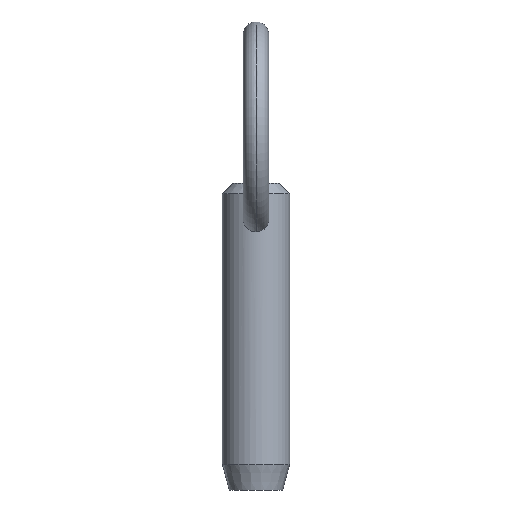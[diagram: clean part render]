
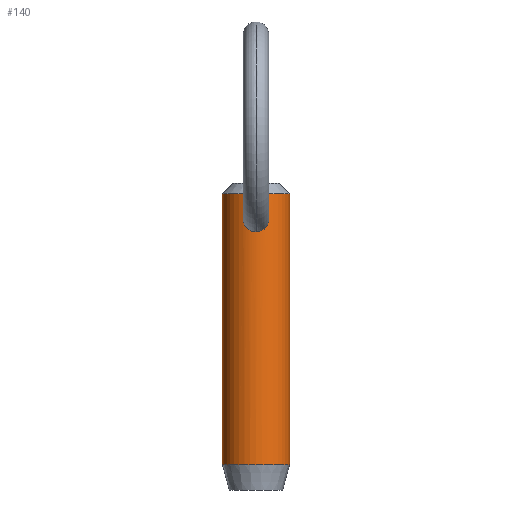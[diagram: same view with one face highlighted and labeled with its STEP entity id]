
A CAD part, front view. The second image highlights one B-rep face of the part: STEP entity #140.
In plain terms, the highlighted cylindrical face has radius 3.965 mm (diameter 7.93 mm), a partial arc.
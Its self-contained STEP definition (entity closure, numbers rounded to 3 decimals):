
#3 = CARTESIAN_POINT ( 'NONE',  ( 1.471, -3.682, 22.094 ) ) ;
#9 = EDGE_LOOP ( 'NONE', ( #222, #176, #436, #37 ) ) ;
#16 = DIRECTION ( 'NONE',  ( 0., 0., 1. ) ) ;
#20 = EDGE_LOOP ( 'NONE', ( #382, #62 ) ) ;
#21 = CARTESIAN_POINT ( 'NONE',  ( 0., 0., -6.52 ) ) ;
#32 = CARTESIAN_POINT ( 'NONE',  ( -1.48, -3.679, 22.089 ) ) ;
#37 = ORIENTED_EDGE ( 'NONE', *, *, #57, .T. ) ;
#38 = CARTESIAN_POINT ( 'NONE',  ( -0.102, -3.965, 24.147 ) ) ;
#42 = CARTESIAN_POINT ( 'NONE',  ( 1.493, -3.673, 22.604 ) ) ;
#48 = DIRECTION ( 'NONE',  ( 0., 0., -1. ) ) ;
#49 = DIRECTION ( 'NONE',  ( 0., 0., -1. ) ) ;
#56 = CARTESIAN_POINT ( 'NONE',  ( 3.965, 0., -6.52 ) ) ;
#57 = EDGE_CURVE ( 'NONE', #178, #213, #240, .T. ) ;
#59 = CARTESIAN_POINT ( 'NONE',  ( -3.965, 0., -6.52 ) ) ;
#62 = ORIENTED_EDGE ( 'NONE', *, *, #280, .T. ) ;
#63 = DIRECTION ( 'NONE',  ( -1., 0., 0. ) ) ;
#66 = CARTESIAN_POINT ( 'NONE',  ( -1.441, -3.695, 22.908 ) ) ;
#67 = EDGE_CURVE ( 'NONE', #353, #213, #340, .T. ) ;
#70 = CARTESIAN_POINT ( 'NONE',  ( -0.206, -3.961, 24.134 ) ) ;
#82 = CARTESIAN_POINT ( 'NONE',  ( 0.404, -3.946, 24.082 ) ) ;
#83 = CARTESIAN_POINT ( 'NONE',  ( 1.503, -3.669, 22.399 ) ) ;
#89 = CIRCLE ( 'NONE', #144, 3.965 ) ;
#102 = CARTESIAN_POINT ( 'NONE',  ( 0., 0., 25.45 ) ) ;
#106 = EDGE_CURVE ( 'NONE', #353, #289, #89, .T. ) ;
#107 = CARTESIAN_POINT ( 'NONE',  ( -1.229, -3.77, 21.539 ) ) ;
#119 = CARTESIAN_POINT ( 'NONE',  ( 0.77, -3.894, 23.9 ) ) ;
#123 = CARTESIAN_POINT ( 'NONE',  ( 1.028, -3.83, 21.315 ) ) ;
#140 = ADVANCED_FACE ( 'NONE', ( #490, #165 ), #188, .T. ) ;
#144 = AXIS2_PLACEMENT_3D ( 'NONE', #102, #384, #184 ) ;
#148 = CARTESIAN_POINT ( 'NONE',  ( -1.488, -3.675, 22.705 ) ) ;
#149 = CARTESIAN_POINT ( 'NONE',  ( -0.925, -3.858, 23.768 ) ) ;
#155 = CARTESIAN_POINT ( 'NONE',  ( 0.409, -3.948, 20.974 ) ) ;
#158 = CARTESIAN_POINT ( 'NONE',  ( 0., -3.965, 24.147 ) ) ;
#161 = CARTESIAN_POINT ( 'NONE',  ( 3.965, 0., 25.45 ) ) ;
#162 = CARTESIAN_POINT ( 'NONE',  ( 1.479, -3.679, 22.707 ) ) ;
#165 = FACE_BOUND ( 'NONE', #20, .T. ) ;
#176 = ORIENTED_EDGE ( 'NONE', *, *, #106, .T. ) ;
#177 = AXIS2_PLACEMENT_3D ( 'NONE', #305, #349, #63 ) ;
#178 = VERTEX_POINT ( 'NONE', #59 ) ;
#184 = DIRECTION ( 'NONE',  ( 1., 0., 0. ) ) ;
#187 = CARTESIAN_POINT ( 'NONE',  ( -0.498, -3.935, 24.044 ) ) ;
#188 = CYLINDRICAL_SURFACE ( 'NONE', #177, 3.965 ) ;
#191 = VERTEX_POINT ( 'NONE', #473 ) ;
#200 = CARTESIAN_POINT ( 'NONE',  ( 1.186, -3.786, 23.459 ) ) ;
#203 = CARTESIAN_POINT ( 'NONE',  ( 0., -3.965, 20.935 ) ) ;
#209 = CARTESIAN_POINT ( 'NONE',  ( 0.205, -3.961, 24.134 ) ) ;
#212 = B_SPLINE_CURVE_WITH_KNOTS ( 'NONE', 3,
 ( #158, #363, #209, #82, #445, #119, #484, #200, #405, #410, #481, #162, #42, #83, #283, #3, #369, #278, #371, #123, #235, #407, #404, #155, #447, #203 ),
 .UNSPECIFIED., .F., .F.,
 ( 4, 2, 2, 2, 2, 2, 2, 2, 2, 2, 2, 2, 4 ),
 ( 0.004, 0.005, 0.005, 0.005, 0.006, 0.006, 0.007, 0.007, 0.007, 0.008, 0.008, 0.008, 0.009 ),
 .UNSPECIFIED. ) ;
#213 = VERTEX_POINT ( 'NONE', #56 ) ;
#222 = ORIENTED_EDGE ( 'NONE', *, *, #67, .F. ) ;
#231 = CARTESIAN_POINT ( 'NONE',  ( -3.965, 0., 25.45 ) ) ;
#234 = CARTESIAN_POINT ( 'NONE',  ( -0.41, -3.948, 20.974 ) ) ;
#235 = CARTESIAN_POINT ( 'NONE',  ( 0.949, -3.851, 21.249 ) ) ;
#240 = CIRCLE ( 'NONE', #253, 3.965 ) ;
#253 = AXIS2_PLACEMENT_3D ( 'NONE', #21, #16, #465 ) ;
#265 = LINE ( 'NONE', #333, #386 ) ;
#268 = CARTESIAN_POINT ( 'NONE',  ( -1.168, -3.79, 21.459 ) ) ;
#274 = CARTESIAN_POINT ( 'NONE',  ( -0.788, -3.891, 21.128 ) ) ;
#278 = CARTESIAN_POINT ( 'NONE',  ( 1.346, -3.73, 21.708 ) ) ;
#280 = EDGE_CURVE ( 'NONE', #191, #359, #300, .T. ) ;
#283 = CARTESIAN_POINT ( 'NONE',  ( 1.499, -3.671, 22.297 ) ) ;
#285 = CARTESIAN_POINT ( 'NONE',  ( 0., -3.965, 24.147 ) ) ;
#289 = VERTEX_POINT ( 'NONE', #231 ) ;
#298 = CARTESIAN_POINT ( 'NONE',  ( 3.965, 0., 20.3 ) ) ;
#300 = B_SPLINE_CURVE_WITH_KNOTS ( 'NONE', 3,
 ( #510, #504, #234, #274, #319, #268, #107, #439, #390, #32, #358, #148, #66, #509, #314, #149, #399, #187, #443, #70, #38, #435 ),
 .UNSPECIFIED., .F., .F.,
 ( 4, 2, 2, 2, 2, 2, 2, 2, 2, 2, 4 ),
 ( 0.009, 0.01, 0.01, 0.011, 0.011, 0.012, 0.012, 0.013, 0.013, 0.014, 0.014 ),
 .UNSPECIFIED. ) ;
#305 = CARTESIAN_POINT ( 'NONE',  ( 0., 0., 20.3 ) ) ;
#314 = CARTESIAN_POINT ( 'NONE',  ( -1.186, -3.786, 23.46 ) ) ;
#319 = CARTESIAN_POINT ( 'NONE',  ( -0.957, -3.85, 21.241 ) ) ;
#329 = VECTOR ( 'NONE', #49, 1000. ) ;
#333 = CARTESIAN_POINT ( 'NONE',  ( -3.965, 0., 20.3 ) ) ;
#340 = LINE ( 'NONE', #298, #329 ) ;
#349 = DIRECTION ( 'NONE',  ( 0., 0., -1. ) ) ;
#353 = VERTEX_POINT ( 'NONE', #161 ) ;
#358 = CARTESIAN_POINT ( 'NONE',  ( -1.508, -3.667, 22.297 ) ) ;
#359 = VERTEX_POINT ( 'NONE', #285 ) ;
#363 = CARTESIAN_POINT ( 'NONE',  ( 0.102, -3.965, 24.147 ) ) ;
#369 = CARTESIAN_POINT ( 'NONE',  ( 1.447, -3.692, 21.993 ) ) ;
#371 = CARTESIAN_POINT ( 'NONE',  ( 1.237, -3.77, 21.531 ) ) ;
#382 = ORIENTED_EDGE ( 'NONE', *, *, #408, .T. ) ;
#384 = DIRECTION ( 'NONE',  ( 0., 0., -1. ) ) ;
#386 = VECTOR ( 'NONE', #48, 1000. ) ;
#390 = CARTESIAN_POINT ( 'NONE',  ( -1.379, -3.718, 21.803 ) ) ;
#399 = CARTESIAN_POINT ( 'NONE',  ( -0.77, -3.894, 23.9 ) ) ;
#404 = CARTESIAN_POINT ( 'NONE',  ( 0.693, -3.905, 21.09 ) ) ;
#405 = CARTESIAN_POINT ( 'NONE',  ( 1.291, -3.75, 23.283 ) ) ;
#407 = CARTESIAN_POINT ( 'NONE',  ( 0.782, -3.888, 21.137 ) ) ;
#408 = EDGE_CURVE ( 'NONE', #359, #191, #212, .T. ) ;
#410 = CARTESIAN_POINT ( 'NONE',  ( 1.404, -3.708, 23.001 ) ) ;
#435 = CARTESIAN_POINT ( 'NONE',  ( 0., -3.965, 24.147 ) ) ;
#436 = ORIENTED_EDGE ( 'NONE', *, *, #488, .T. ) ;
#439 = CARTESIAN_POINT ( 'NONE',  ( -1.335, -3.734, 21.71 ) ) ;
#443 = CARTESIAN_POINT ( 'NONE',  ( -0.403, -3.946, 24.082 ) ) ;
#445 = CARTESIAN_POINT ( 'NONE',  ( 0.498, -3.935, 24.044 ) ) ;
#447 = CARTESIAN_POINT ( 'NONE',  ( 0.205, -3.965, 20.935 ) ) ;
#465 = DIRECTION ( 'NONE',  ( -1., 0., 0. ) ) ;
#473 = CARTESIAN_POINT ( 'NONE',  ( 0., -3.965, 20.935 ) ) ;
#481 = CARTESIAN_POINT ( 'NONE',  ( 1.434, -3.697, 22.905 ) ) ;
#484 = CARTESIAN_POINT ( 'NONE',  ( 0.925, -3.858, 23.768 ) ) ;
#488 = EDGE_CURVE ( 'NONE', #289, #178, #265, .T. ) ;
#490 = FACE_OUTER_BOUND ( 'NONE', #9, .T. ) ;
#504 = CARTESIAN_POINT ( 'NONE',  ( -0.205, -3.965, 20.935 ) ) ;
#509 = CARTESIAN_POINT ( 'NONE',  ( -1.29, -3.75, 23.285 ) ) ;
#510 = CARTESIAN_POINT ( 'NONE',  ( 0., -3.965, 20.935 ) ) ;
